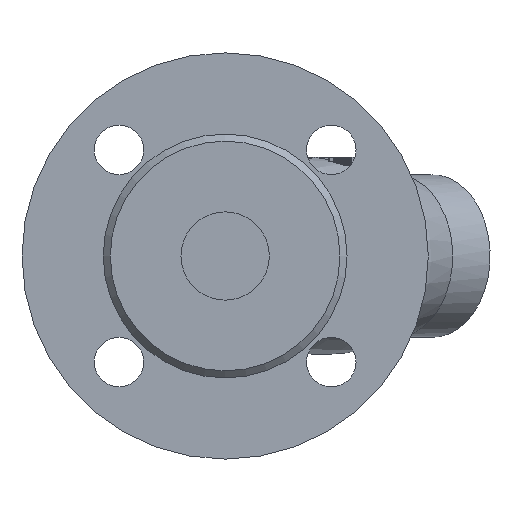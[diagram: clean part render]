
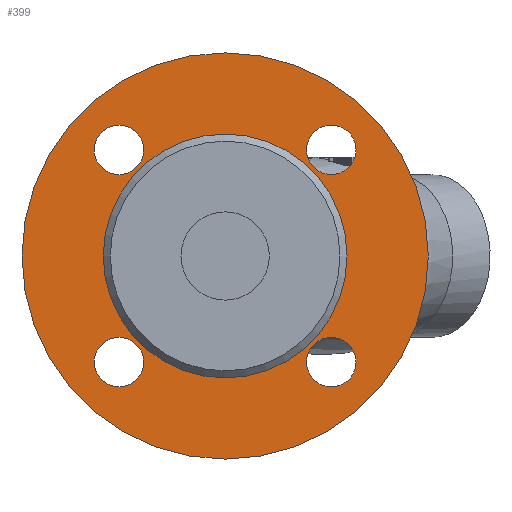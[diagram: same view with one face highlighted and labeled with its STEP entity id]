
A CAD part, left-side view. The second image highlights one B-rep face of the part: STEP entity #399.
In plain terms, the highlighted planar face has unit normal (-1, 0, 0).
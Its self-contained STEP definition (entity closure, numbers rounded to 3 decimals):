
#399=ADVANCED_FACE('',(#8227,#8229,#8231,#8233,#8235,#8237),#8239,.T.);
#8227=FACE_BOUND('',#8228,.T.);
#8228=EDGE_LOOP('',(#15117,#15118));
#8229=FACE_BOUND('',#8230,.T.);
#8230=EDGE_LOOP('',(#15119));
#8231=FACE_BOUND('',#8232,.T.);
#8232=EDGE_LOOP('',(#15120));
#8233=FACE_BOUND('',#8234,.T.);
#8234=EDGE_LOOP('',(#15121));
#8235=FACE_BOUND('',#8236,.T.);
#8236=EDGE_LOOP('',(#15122));
#8237=FACE_BOUND('',#8238,.T.);
#8238=EDGE_LOOP('',(#15123,#15124));
#8239=PLANE('',#8240);
#8240=AXIS2_PLACEMENT_3D('',#8241,#8242,#8243);
#8241=CARTESIAN_POINT('',(3207.709,124.64,-6.5));
#8242=DIRECTION('',(-1.,0.,0.));
#8243=DIRECTION('',(0.,0.,1.));
#15117=ORIENTED_EDGE('',*,*,#20149,.F.);
#15118=ORIENTED_EDGE('',*,*,#20150,.F.);
#15119=ORIENTED_EDGE('',*,*,#20138,.T.);
#15120=ORIENTED_EDGE('',*,*,#20140,.T.);
#15121=ORIENTED_EDGE('',*,*,#20142,.T.);
#15122=ORIENTED_EDGE('',*,*,#20136,.T.);
#15123=ORIENTED_EDGE('',*,*,#20148,.T.);
#15124=ORIENTED_EDGE('',*,*,#20147,.T.);
#20136=EDGE_CURVE('',#23558,#23558,#23559,.T.);
#20138=EDGE_CURVE('',#23562,#23562,#23563,.T.);
#20140=EDGE_CURVE('',#23566,#23566,#23567,.T.);
#20142=EDGE_CURVE('',#23570,#23570,#23571,.T.);
#20147=EDGE_CURVE('',#23580,#23581,#23582,.T.);
#20148=EDGE_CURVE('',#23581,#23580,#23583,.T.);
#20149=EDGE_CURVE('',#23584,#23585,#23586,.T.);
#20150=EDGE_CURVE('',#23585,#23584,#23587,.T.);
#23558=VERTEX_POINT('',#32978);
#23559=CIRCLE('',#32979,7.);
#23562=VERTEX_POINT('',#32988);
#23563=CIRCLE('',#32989,7.);
#23566=VERTEX_POINT('',#32998);
#23567=CIRCLE('',#32999,7.);
#23570=VERTEX_POINT('',#33008);
#23571=CIRCLE('',#33009,7.);
#23580=VERTEX_POINT('',#33033);
#23581=VERTEX_POINT('',#33034);
#23582=CIRCLE('',#33035,34.5);
#23583=CIRCLE('',#33039,34.5);
#23584=VERTEX_POINT('',#33043);
#23585=VERTEX_POINT('',#33044);
#23586=CIRCLE('',#33045,57.5);
#23587=CIRCLE('',#33049,57.5);
#32978=CARTESIAN_POINT('',(3207.709,30.088,23.552));
#32979=AXIS2_PLACEMENT_3D('',#32980,#32981,#32982);
#32980=CARTESIAN_POINT('',(3207.709,37.088,23.552));
#32981=DIRECTION('',(1.,0.,0.));
#32982=DIRECTION('',(0.,-1.,0.));
#32988=CARTESIAN_POINT('',(3207.709,90.192,-36.552));
#32989=AXIS2_PLACEMENT_3D('',#32990,#32991,#32992);
#32990=CARTESIAN_POINT('',(3207.709,97.192,-36.552));
#32991=DIRECTION('',(1.,0.,0.));
#32992=DIRECTION('',(0.,-1.,0.));
#32998=CARTESIAN_POINT('',(3207.709,30.088,-36.552));
#32999=AXIS2_PLACEMENT_3D('',#33000,#33001,#33002);
#33000=CARTESIAN_POINT('',(3207.709,37.088,-36.552));
#33001=DIRECTION('',(1.,0.,0.));
#33002=DIRECTION('',(0.,-1.,0.));
#33008=CARTESIAN_POINT('',(3207.709,90.192,23.552));
#33009=AXIS2_PLACEMENT_3D('',#33010,#33011,#33012);
#33010=CARTESIAN_POINT('',(3207.709,97.192,23.552));
#33011=DIRECTION('',(1.,0.,0.));
#33012=DIRECTION('',(0.,-1.,0.));
#33033=CARTESIAN_POINT('',(3207.709,32.64,-6.5));
#33034=CARTESIAN_POINT('',(3207.709,101.64,-6.5));
#33035=AXIS2_PLACEMENT_3D('',#33036,#33037,#33038);
#33036=CARTESIAN_POINT('',(3207.709,67.14,-6.5));
#33037=DIRECTION('',(1.,0.,0.));
#33038=DIRECTION('',(0.,-1.,0.));
#33039=AXIS2_PLACEMENT_3D('',#33040,#33041,#33042);
#33040=CARTESIAN_POINT('',(3207.709,67.14,-6.5));
#33041=DIRECTION('',(1.,0.,0.));
#33042=DIRECTION('',(0.,1.,0.));
#33043=CARTESIAN_POINT('',(3207.709,9.64,-6.5));
#33044=CARTESIAN_POINT('',(3207.709,124.64,-6.5));
#33045=AXIS2_PLACEMENT_3D('',#33046,#33047,#33048);
#33046=CARTESIAN_POINT('',(3207.709,67.14,-6.5));
#33047=DIRECTION('',(1.,0.,0.));
#33048=DIRECTION('',(0.,-1.,0.));
#33049=AXIS2_PLACEMENT_3D('',#33050,#33051,#33052);
#33050=CARTESIAN_POINT('',(3207.709,67.14,-6.5));
#33051=DIRECTION('',(1.,0.,0.));
#33052=DIRECTION('',(0.,1.,0.));
